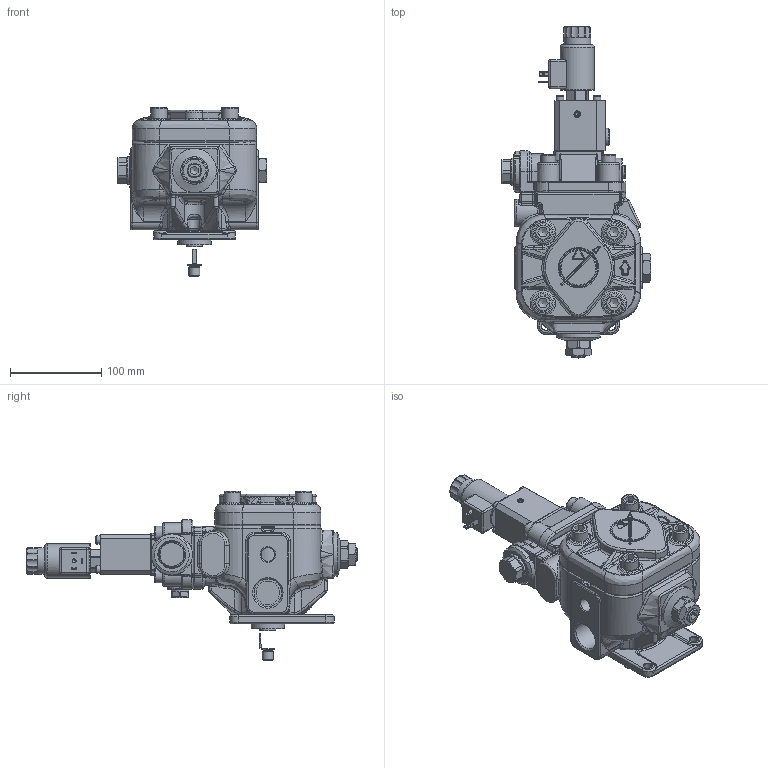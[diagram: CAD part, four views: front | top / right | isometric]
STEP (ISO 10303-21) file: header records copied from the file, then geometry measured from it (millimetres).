
FILE_DESCRIPTION(/* description */ (''),/* implementation_level */ '2;1');
FILE_NAME(/* name */ 'W:\Tecnico\Archivio\Berarma\Dimensioni Pompe\3D Export\Montaggio 3D semplificato\PLP-PHP 05\PHP05 FGR2HRM PCS005.stp',/* time_stamp */ '2018-10-10T14:53:25+02:00',/* author */ ('marcop'),/* organization */ (''),/* preprocessor_version */ 'ST-DEVELOPER v17',/* originating_system */ 'Autodesk Inventor 2018',/* authorisation */ '');
FILE_SCHEMA (('AUTOMOTIVE_DESIGN { 1 0 10303 214 3 1 1 }'));
Length unit declared in the file: millimetre
Products named in the file (1): PHP05_Shrinkwrap_1
Bounding box: 163.3 x 363.15 x 185 mm (x, y, z)
Volume: 2235183.5 mm3; surface area: 235762.1 mm2
Topology: 2 solids, 2 shells, 2079 faces, 5246 edges, 3178 vertices
Faces by surface type: plane 720, cylinder 455, bspline 385, torus 239, cone 221, sphere 59
Full cylindrical faces by diameter (mm): 1.6 x3, 1.7 x4, 2.5 x1, 3.242 x1, 4.3 x1, 6 x1, 6.5 x1, 8.5 x8, 9 x8, 10.25 x1, 12 x3, 13 x1, 14 x1, 14.5 x1, 14.95 x1, 15 x1, 15.5 x1, 16 x5, 16.376 x1, 16.5 x4, 16.789 x1, 17 x1, 17.25 x1, 17.805 x1, 17.84 x1, 18 x5, 18.999 x2, 19 x3, 19.2 x1, 20 x1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
Entity records: 76551 total; most frequent: CARTESIAN_POINT 27232, ORIENTED_EDGE 10288, DIRECTION 9467, EDGE_CURVE 5144, AXIS2_PLACEMENT_3D 3772, VERTEX_POINT 3178, EDGE_LOOP 2204, STYLED_ITEM 2081
